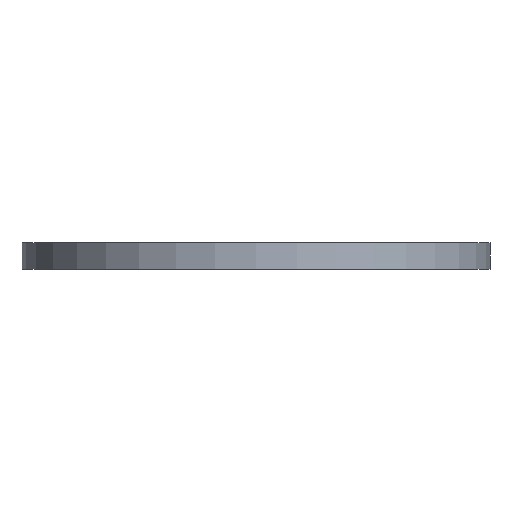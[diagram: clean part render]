
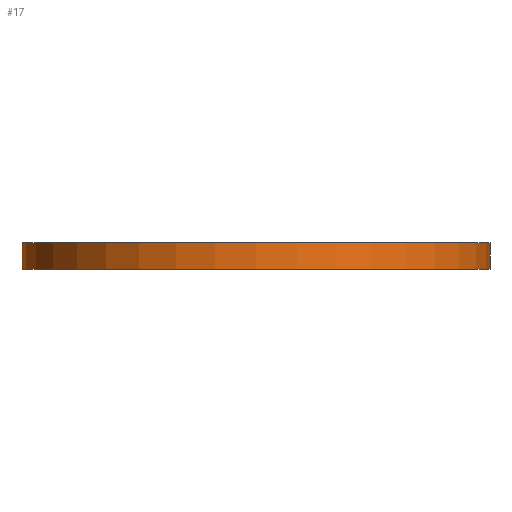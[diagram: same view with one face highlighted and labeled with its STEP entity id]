
A CAD part, front view. The second image highlights one B-rep face of the part: STEP entity #17.
In plain terms, the highlighted cylindrical face has radius 194 mm (diameter 388 mm), a full revolution.
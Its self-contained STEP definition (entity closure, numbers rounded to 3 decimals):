
#17 = ADVANCED_FACE('',(#18),#32,.T.);
#18 = FACE_BOUND('',#19,.F.);
#19 = EDGE_LOOP('',(#20,#50,#77,#78));
#20 = ORIENTED_EDGE('',*,*,#21,.T.);
#21 = EDGE_CURVE('',#22,#24,#26,.T.);
#22 = VERTEX_POINT('',#23);
#23 = CARTESIAN_POINT('',(194.,0.,-11.));
#24 = VERTEX_POINT('',#25);
#25 = CARTESIAN_POINT('',(194.,0.,11.));
#26 = SEAM_CURVE('',#27,(#31,#43),.PCURVE_S1.);
#27 = LINE('',#28,#29);
#28 = CARTESIAN_POINT('',(194.,0.,-11.));
#29 = VECTOR('',#30,1.);
#30 = DIRECTION('',(0.,0.,1.));
#31 = PCURVE('',#32,#37);
#32 = CYLINDRICAL_SURFACE('',#33,194.);
#33 = AXIS2_PLACEMENT_3D('',#34,#35,#36);
#34 = CARTESIAN_POINT('',(0.,0.,-11.));
#35 = DIRECTION('',(-0.,-0.,-1.));
#36 = DIRECTION('',(1.,0.,0.));
#37 = DEFINITIONAL_REPRESENTATION('',(#38),#42);
#38 = LINE('',#39,#40);
#39 = CARTESIAN_POINT('',(-0.,0.));
#40 = VECTOR('',#41,1.);
#41 = DIRECTION('',(-0.,-1.));
#42 = ( GEOMETRIC_REPRESENTATION_CONTEXT(2) 
PARAMETRIC_REPRESENTATION_CONTEXT() REPRESENTATION_CONTEXT('2D SPACE',''
  ) );
#43 = PCURVE('',#32,#44);
#44 = DEFINITIONAL_REPRESENTATION('',(#45),#49);
#45 = LINE('',#46,#47);
#46 = CARTESIAN_POINT('',(-6.283,0.));
#47 = VECTOR('',#48,1.);
#48 = DIRECTION('',(-0.,-1.));
#49 = ( GEOMETRIC_REPRESENTATION_CONTEXT(2) 
PARAMETRIC_REPRESENTATION_CONTEXT() REPRESENTATION_CONTEXT('2D SPACE',''
  ) );
#50 = ORIENTED_EDGE('',*,*,#51,.T.);
#51 = EDGE_CURVE('',#24,#24,#52,.T.);
#52 = SURFACE_CURVE('',#53,(#58,#65),.PCURVE_S1.);
#53 = CIRCLE('',#54,194.);
#54 = AXIS2_PLACEMENT_3D('',#55,#56,#57);
#55 = CARTESIAN_POINT('',(0.,0.,11.));
#56 = DIRECTION('',(0.,0.,1.));
#57 = DIRECTION('',(1.,0.,0.));
#58 = PCURVE('',#32,#59);
#59 = DEFINITIONAL_REPRESENTATION('',(#60),#64);
#60 = LINE('',#61,#62);
#61 = CARTESIAN_POINT('',(-0.,-22.));
#62 = VECTOR('',#63,1.);
#63 = DIRECTION('',(-1.,0.));
#64 = ( GEOMETRIC_REPRESENTATION_CONTEXT(2) 
PARAMETRIC_REPRESENTATION_CONTEXT() REPRESENTATION_CONTEXT('2D SPACE',''
  ) );
#65 = PCURVE('',#66,#71);
#66 = PLANE('',#67);
#67 = AXIS2_PLACEMENT_3D('',#68,#69,#70);
#68 = CARTESIAN_POINT('',(0.,0.,11.));
#69 = DIRECTION('',(0.,0.,1.));
#70 = DIRECTION('',(1.,0.,-0.));
#71 = DEFINITIONAL_REPRESENTATION('',(#72),#76);
#72 = CIRCLE('',#73,194.);
#73 = AXIS2_PLACEMENT_2D('',#74,#75);
#74 = CARTESIAN_POINT('',(0.,0.));
#75 = DIRECTION('',(1.,0.));
#76 = ( GEOMETRIC_REPRESENTATION_CONTEXT(2) 
PARAMETRIC_REPRESENTATION_CONTEXT() REPRESENTATION_CONTEXT('2D SPACE',''
  ) );
#77 = ORIENTED_EDGE('',*,*,#21,.F.);
#78 = ORIENTED_EDGE('',*,*,#79,.F.);
#79 = EDGE_CURVE('',#22,#22,#80,.T.);
#80 = SURFACE_CURVE('',#81,(#86,#93),.PCURVE_S1.);
#81 = CIRCLE('',#82,194.);
#82 = AXIS2_PLACEMENT_3D('',#83,#84,#85);
#83 = CARTESIAN_POINT('',(0.,0.,-11.));
#84 = DIRECTION('',(0.,0.,1.));
#85 = DIRECTION('',(1.,0.,0.));
#86 = PCURVE('',#32,#87);
#87 = DEFINITIONAL_REPRESENTATION('',(#88),#92);
#88 = LINE('',#89,#90);
#89 = CARTESIAN_POINT('',(-0.,0.));
#90 = VECTOR('',#91,1.);
#91 = DIRECTION('',(-1.,0.));
#92 = ( GEOMETRIC_REPRESENTATION_CONTEXT(2) 
PARAMETRIC_REPRESENTATION_CONTEXT() REPRESENTATION_CONTEXT('2D SPACE',''
  ) );
#93 = PCURVE('',#94,#99);
#94 = PLANE('',#95);
#95 = AXIS2_PLACEMENT_3D('',#96,#97,#98);
#96 = CARTESIAN_POINT('',(0.,0.,-11.));
#97 = DIRECTION('',(0.,0.,1.));
#98 = DIRECTION('',(1.,0.,-0.));
#99 = DEFINITIONAL_REPRESENTATION('',(#100),#104);
#100 = CIRCLE('',#101,194.);
#101 = AXIS2_PLACEMENT_2D('',#102,#103);
#102 = CARTESIAN_POINT('',(0.,0.));
#103 = DIRECTION('',(1.,0.));
#104 = ( GEOMETRIC_REPRESENTATION_CONTEXT(2) 
PARAMETRIC_REPRESENTATION_CONTEXT() REPRESENTATION_CONTEXT('2D SPACE',''
  ) );
